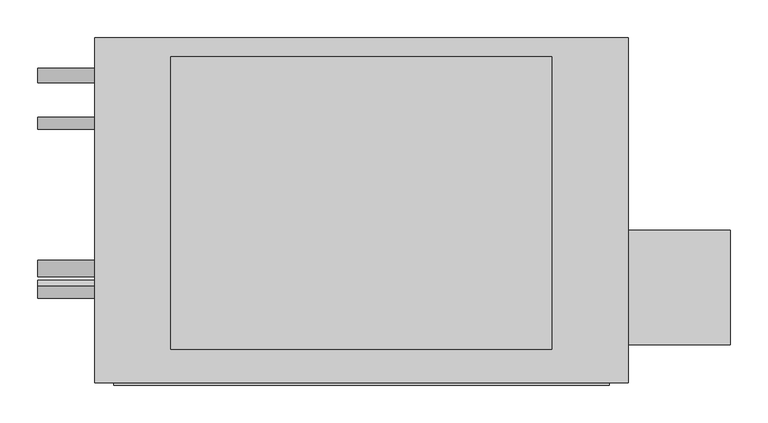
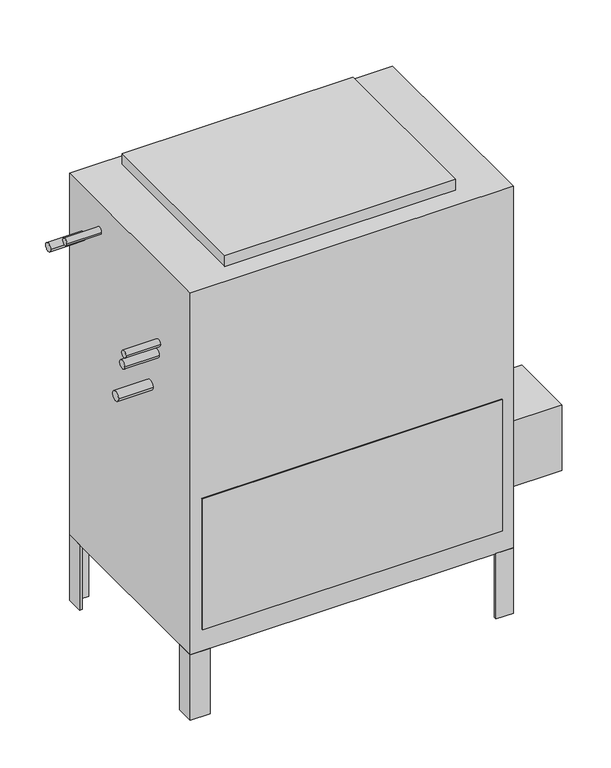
"""IFC4 building model written with IfcOpenShell, lengths in millimetres: proxy geometry, Concealed_High_Capacity_Vertical_Fan_Coil_Unit_-_42DDA_-_CARRIER_-_4-Pipe_LH_2022 : Size 08 - 277v/60Hz/1Ph - 4/2 Coil."""

import ifcopenshell
import ifcopenshell.guid

model = None  # the IFC model being written
_history = None  # IfcOwnerHistory: only IFC2X3 demands one
_inside = {}  # id of a spatial element -> (the spatial element, [elements in it])
_under = {}  # id of a project, library or spatial element -> (it, [spatial elements below it])
_declared = {}  # id of a project -> (the project, [libraries it declares])
_typed = {}  # id of a type object -> (the type object, [elements of that type])
_made_of = {}  # id of a material, layer set ... -> (it, [elements and type objects made of it])


def new_model(schema):
    """Start an empty IFC model of exactly this schema.

    Asked for "IFC4X3", IfcOpenShell would pick the latest addendum, in which some entities
    have other attributes; the version numbers below select the first issue.
    IFC2X3 requires an IfcOwnerHistory on every rooted entity: one is made here for all.
    """
    global model, _history
    if schema == "IFC4X3":
        model = ifcopenshell.file(schema_version=(4, 3, 0, 0))
    else:
        model = ifcopenshell.file(schema=schema)
    _inside.clear()
    _under.clear()
    _declared.clear()
    _typed.clear()
    _made_of.clear()
    _history = None
    if model.schema == "IFC2X3":
        org = make("IfcOrganization", Name="unknown")
        user = make(
            "IfcPersonAndOrganization",
            ThePerson=make("IfcPerson", FamilyName="unknown"),
            TheOrganization=org,
        )
        app = make(
            "IfcApplication",
            ApplicationDeveloper=org,
            Version="unknown",
            ApplicationFullName="unknown",
            ApplicationIdentifier="unknown",
        )
        _history = make(
            "IfcOwnerHistory",
            OwningUser=user,
            OwningApplication=app,
            ChangeAction="ADDED",
            CreationDate=0,
        )
    return model


def make(cls, **values):
    """One entity of the class cls with the attributes given. An attribute that is None is left unset."""
    return model.create_entity(
        cls, **{name: value for name, value in values.items() if value is not None}
    )


def rooted(cls, **values):
    """An entity with a GlobalId (a new one), such as an element, a storey or a relation."""
    return make(cls, GlobalId=ifcopenshell.guid.new(), OwnerHistory=_history, **values)


def si_unit(unit_type, name, prefix=None):
    """IfcSIUnit, for example si_unit("LENGTHUNIT", "METRE", prefix="MILLI")."""
    return make("IfcSIUnit", UnitType=unit_type, Prefix=prefix, Name=name)


def assignment(units):
    """IfcUnitAssignment: the units of a project."""
    return None if units is None else make("IfcUnitAssignment", Units=units)


def point(xyz):
    """IfcCartesianPoint."""
    return None if xyz is None else make("IfcCartesianPoint", Coordinates=xyz)


def direction(xyz):
    """IfcDirection."""
    return None if xyz is None else make("IfcDirection", DirectionRatios=xyz)


def frame(location, z_axis=None, x_axis=None):
    """IfcAxis2Placement3D, a coordinate frame: its origin and axes. An axis left out is left unset."""
    return make(
        "IfcAxis2Placement3D",
        Location=point(location),
        Axis=direction(z_axis),
        RefDirection=direction(x_axis),
    )


def frame_2d(location, x_axis=None):
    """IfcAxis2Placement2D, a coordinate frame in the plane: its origin and x axis."""
    return make(
        "IfcAxis2Placement2D", Location=point(location), RefDirection=direction(x_axis)
    )


def origin():
    """The frame at (0, 0, 0) with its axes left unset."""
    return frame((0.0, 0.0, 0.0))


def origin_with_axes():
    """The frame at (0, 0, 0) with the z axis (0, 0, 1) and the x axis (1, 0, 0) written out."""
    return frame((0.0, 0.0, 0.0), z_axis=(0.0, 0.0, 1.0), x_axis=(1.0, 0.0, 0.0))


def place(relative_to, where):
    """IfcLocalPlacement: puts the frame where relative to a parent placement (None: the world)."""
    return make(
        "IfcLocalPlacement", PlacementRelTo=relative_to, RelativePlacement=where
    )


def context(
    kind, dimensions, precision=None, world=None, true_north=None, identifier=None
):
    """IfcGeometricRepresentationContext, for example the 3D "Model" context."""
    return make(
        "IfcGeometricRepresentationContext",
        ContextIdentifier=identifier,
        ContextType=kind,
        CoordinateSpaceDimension=dimensions,
        Precision=precision,
        WorldCoordinateSystem=world,
        TrueNorth=true_north,
    )


def project(units=None, contexts=None):
    """IfcProject with its units and contexts."""
    return rooted(
        "IfcProject",
        Name="project",
        RepresentationContexts=contexts,
        UnitsInContext=assignment(units),
    )


def spatial(cls, under=None, at=None, **own):
    """A site, building, storey or space (cls), placed at a placement, below another one or the project."""
    s = rooted(cls, ObjectPlacement=at, **own)
    if under is not None:
        _under.setdefault(under.id(), (under, []))[1].append(s)
    return s


def polyline(points):
    """IfcPolyline through the points."""
    return make("IfcPolyline", Points=[point(p) for p in points])


def circle_curve(where, radius):
    """IfcCircle in the frame where."""
    return make("IfcCircle", Position=where, Radius=radius)


def trimmed(basis, trim1, trim2, sense, master):
    """IfcTrimmedCurve: the piece of a basis curve between two trims."""
    return make(
        "IfcTrimmedCurve",
        BasisCurve=basis,
        Trim1=trim1,
        Trim2=trim2,
        SenseAgreement=sense,
        MasterRepresentation=master,
    )


def segment(curve, same_sense, transition):
    """IfcCompositeCurveSegment."""
    return make(
        "IfcCompositeCurveSegment",
        Transition=transition,
        SameSense=same_sense,
        ParentCurve=curve,
    )


def composite_curve(segments, self_intersect=None):
    """IfcCompositeCurve: segments joined end to end."""
    return make("IfcCompositeCurve", Segments=segments, SelfIntersect=self_intersect)


def outline(outer, holes=None, kind="AREA"):
    """IfcArbitraryClosedProfileDef: a profile drawn as a closed curve; with holes, ...WithVoids."""
    if holes is None:
        return make("IfcArbitraryClosedProfileDef", ProfileType=kind, OuterCurve=outer)
    return make(
        "IfcArbitraryProfileDefWithVoids",
        ProfileType=kind,
        OuterCurve=outer,
        InnerCurves=holes,
    )


def extrude(swept, where, along, depth):
    """IfcExtrudedAreaSolid: the profile swept, set in the frame where, extruded along a direction by depth."""
    return make(
        "IfcExtrudedAreaSolid",
        SweptArea=swept,
        Position=where,
        ExtrudedDirection=direction(along),
        Depth=depth,
    )


def shape(context_of_items, identifier, shape_type, items):
    """IfcShapeRepresentation: the items that make up one representation, for example the "Body"."""
    return make(
        "IfcShapeRepresentation",
        ContextOfItems=context_of_items,
        RepresentationIdentifier=identifier,
        RepresentationType=shape_type,
        Items=items,
    )


def source(mapping_origin, context_of_items, identifier, shape_type, items):
    """IfcRepresentationMap: a shape defined once, which mapped items show again and again."""
    return make(
        "IfcRepresentationMap",
        MappingOrigin=mapping_origin,
        MappedRepresentation=shape(context_of_items, identifier, shape_type, items),
    )


def transform(
    local_origin,
    x_axis=None,
    y_axis=None,
    z_axis=None,
    scale=None,
    scale2=None,
    scale3=None,
    uniform=True,
):
    """IfcCartesianTransformationOperator3D, or its non-uniform kind. x_axis, y_axis, z_axis: its Axis1, 2, 3."""
    if uniform:
        return make(
            "IfcCartesianTransformationOperator3D",
            Axis1=direction(x_axis),
            Axis2=direction(y_axis),
            LocalOrigin=point(local_origin),
            Scale=scale,
            Axis3=direction(z_axis),
        )
    return make(
        "IfcCartesianTransformationOperator3DnonUniform",
        Axis1=direction(x_axis),
        Axis2=direction(y_axis),
        LocalOrigin=point(local_origin),
        Scale=scale,
        Axis3=direction(z_axis),
        Scale2=scale2,
        Scale3=scale3,
    )


def mapped(mapping_source, mapping_target):
    """IfcMappedItem: shows the shape of a source again, moved by a transform."""
    return make(
        "IfcMappedItem", MappingSource=mapping_source, MappingTarget=mapping_target
    )


def made_of(thing, what):
    """Note that an element or type object is made of a material, layer set ...; save() writes the relation."""
    if what is not None:
        _made_of.setdefault(what.id(), (what, []))[1].append(thing)
    return thing


def element(
    cls,
    number,
    at=None,
    inside=None,
    cuts=None,
    type_object=None,
    material=None,
    context=None,
    identifier="Body",
    shape_type=None,
    held_by="IfcProductDefinitionShape",
    body=None,
    shapes=None,
    **own,
):
    """One element of the class cls, such as IfcWall. Its Tag is "e" and its number.

    at: its placement. inside: the storey or other place that contains it. cuts: it is an
    opening in that element (IfcRelVoidsElement). A single representation is given by context,
    identifier, shape_type and body (its items); several are given by shapes. held_by: the class
    of the entity that holds the representations. save() writes the other relations.
    """
    e = rooted(cls, Tag="e%d" % number, ObjectPlacement=at, **own)
    if body is not None:
        shapes = [shape(context, identifier, shape_type, body)]
    if shapes is not None:
        e.Representation = make(held_by, Representations=shapes)
    if inside is not None:
        _inside.setdefault(inside.id(), (inside, []))[1].append(e)
    if cuts is not None:
        rooted(
            "IfcRelVoidsElement", RelatingBuildingElement=cuts, RelatedOpeningElement=e
        )
    if type_object is not None:
        _typed.setdefault(type_object.id(), (type_object, []))[1].append(e)
    return made_of(e, material)


def aggregate(whole, parts):
    """IfcRelAggregates: a whole, such as a stair, and the parts it consists of."""
    return rooted("IfcRelAggregates", RelatingObject=whole, RelatedObjects=parts)


def save(model, path):
    """Write the relations noted so far, then the file.

    IfcRelAggregates (storeys below a building ...), IfcRelContainedInSpatialStructure (elements
    in a storey), IfcRelDefinesByType, IfcRelAssociatesMaterial and IfcRelDeclares: one each for
    every whole, place, type object, material and project.
    """
    for whole, parts in _under.values():
        aggregate(whole, parts)
    for where, things in _inside.values():
        rooted(
            "IfcRelContainedInSpatialStructure",
            RelatedElements=things,
            RelatingStructure=where,
        )
    for kind, things in _typed.values():
        rooted("IfcRelDefinesByType", RelatedObjects=things, RelatingType=kind)
    for what, things in _made_of.values():
        rooted("IfcRelAssociatesMaterial", RelatedObjects=things, RelatingMaterial=what)
    for by, libraries in _declared.values():
        rooted("IfcRelDeclares", RelatingContext=by, RelatedDefinitions=libraries)
    model.write(path)


def mechanical_equipment_c005a9e1(model_context):
    return source(origin(), model_context, "Body", "SweptSolid", [
        extrude(outline(polyline([(644.525, -265.1125), (644.525, -417.5125), (508.0, -417.5125), (508.0, -265.1125), (644.525, -265.1125)])), frame((0.0, 0.0, 101.6), z_axis=(0.0, 0.0, 1.0), x_axis=(1.0, 0.0, 0.0)), (0.0, 0.0, 1.0), 152.4),
        extrude(outline(polyline([(508.0, -46.0375), (501.65, -46.0375), (501.65, -14.2875), (469.9, -14.2875), (469.9, -7.9375), (508.0, -7.9375), (508.0, -46.0375)])), frame((0.0, 0.0, -152.4), z_axis=(0.0, 0.0, 1.0), x_axis=(1.0, 0.0, 0.0)), (0.0, 0.0, 1.0), 152.4),
        extrude(outline(polyline([(-165.1, -7.9375), (-165.1, -14.2875), (-196.85, -14.2875), (-196.85, -46.0375), (-203.2, -46.0375), (-203.2, -7.9375), (-165.1, -7.9375)])), frame((0.0, 0.0, -152.4), z_axis=(0.0, 0.0, 1.0), x_axis=(1.0, 0.0, 0.0)), (0.0, 0.0, 1.0), 152.4),
        extrude(outline(polyline([(469.9, -468.3125), (469.9, -461.9625), (501.65, -461.9625), (501.65, -430.2125), (508.0, -430.2125), (508.0, -468.3125), (469.9, -468.3125)])), frame((0.0, 0.0, -152.4), z_axis=(0.0, 0.0, 1.0), x_axis=(1.0, 0.0, 0.0)), (0.0, 0.0, 1.0), 152.4),
        extrude(outline(polyline([(-203.2, -428.1199163), (-196.85, -428.1199163), (-196.85, -461.9625), (-159.7318533, -461.9625), (-159.7318533, -468.3125), (-203.2, -468.3125), (-203.2, -428.1199163)])), frame((0.0, 0.0, -152.4), z_axis=(0.0, 0.0, 1.0), x_axis=(1.0, 0.0, 0.0)), (0.0, 0.0, 1.0), 152.4),
        extrude(outline(polyline([(406.4, -33.3375), (406.4, -423.8625), (-101.6, -423.8625), (-101.6, -33.3375), (406.4, -33.3375)])), frame((0.0, 0.0, 841.375), z_axis=(0.0, 0.0, 1.0), x_axis=(1.0, 0.0, 0.0)), (0.0, 0.0, 1.0), 25.4),
        extrude(outline(polyline([(482.6, -471.4875), (-177.8, -471.4875), (-177.8, -468.3125), (482.6, -468.3125), (482.6, -471.4875)])), frame((0.0, 0.0, 50.8), z_axis=(0.0, 0.0, 1.0), x_axis=(1.0, 0.0, 0.0)), (0.0, 0.0, 1.0), 304.8),
        extrude(outline(composite_curve([segment(trimmed(circle_curve(frame_2d((-122.2375, 777.875)), 7.9375), [point((-130.175, 777.875))], [point((-114.3, 777.875))], False, "CARTESIAN"), True, "CONTINUOUS"), segment(trimmed(circle_curve(frame_2d((-122.2375, 777.875)), 7.9375), [point((-114.3, 777.875))], [point((-130.175, 777.875))], False, "CARTESIAN"), True, "CONTINUOUS")], self_intersect=False)), frame((-279.4, 0.0, 0.0), z_axis=(1.0, 0.0, 0.0), x_axis=(0.0, 1.0, 0.0)), (0.0, 0.0, 1.0), 76.2),
        extrude(outline(composite_curve([segment(trimmed(circle_curve(frame_2d((-347.3848135, 653.2230057)), 7.9375), [point((-355.3223135, 653.2230057))], [point((-339.4473135, 653.2230057))], False, "CARTESIAN"), True, "CONTINUOUS"), segment(trimmed(circle_curve(frame_2d((-347.3848135, 653.2230057)), 7.9375), [point((-339.4473135, 653.2230057))], [point((-355.3223135, 653.2230057))], False, "CARTESIAN"), True, "CONTINUOUS")], self_intersect=False)), frame((-279.4, 0.0, 0.0), z_axis=(1.0, 0.0, 0.0), x_axis=(0.0, 1.0, 0.0)), (0.0, 0.0, 1.0), 76.2),
        extrude(outline(composite_curve([segment(trimmed(circle_curve(frame_2d((-58.7375, 727.075)), 9.525), [point((-68.2625, 727.075))], [point((-49.2125, 727.075))], False, "CARTESIAN"), True, "CONTINUOUS"), segment(trimmed(circle_curve(frame_2d((-58.7375, 727.075)), 9.525), [point((-49.2125, 727.075))], [point((-68.2625, 727.075))], False, "CARTESIAN"), True, "CONTINUOUS")], self_intersect=False)), frame((-279.4, 0.0, 0.0), z_axis=(1.0, 0.0, 0.0), x_axis=(0.0, 1.0, 0.0)), (0.0, 0.0, 1.0), 76.2),
        extrude(outline(composite_curve([segment(trimmed(circle_curve(frame_2d((-341.3125, 625.475)), 9.525), [point((-350.8375, 625.475))], [point((-331.7875, 625.475))], False, "CARTESIAN"), True, "CONTINUOUS"), segment(trimmed(circle_curve(frame_2d((-341.3125, 625.475)), 9.525), [point((-331.7875, 625.475))], [point((-350.8375, 625.475))], False, "CARTESIAN"), True, "CONTINUOUS")], self_intersect=False)), frame((-279.4, 0.0, 0.0), z_axis=(1.0, 0.0, 0.0), x_axis=(0.0, 1.0, 0.0)), (0.0, 0.0, 1.0), 76.2),
        extrude(outline(composite_curve([segment(trimmed(circle_curve(frame_2d((-315.9125, 536.575)), 11.1125), [point((-327.025, 536.575))], [point((-304.8, 536.575))], False, "CARTESIAN"), True, "CONTINUOUS"), segment(trimmed(circle_curve(frame_2d((-315.9125, 536.575)), 11.1125), [point((-304.8, 536.575))], [point((-327.025, 536.575))], False, "CARTESIAN"), True, "CONTINUOUS")], self_intersect=False)), frame((-279.4, 0.0, 0.0), z_axis=(1.0, 0.0, 0.0), x_axis=(0.0, 1.0, 0.0)), (0.0, 0.0, 1.0), 76.2),
        extrude(outline(polyline([(508.0, -7.9375), (508.0, -468.3125), (-203.2, -468.3125), (-203.2, -7.9375), (508.0, -7.9375)])), origin_with_axes(), (0.0, 0.0, 1.0), 841.375),
    ])


if __name__ == "__main__":
    model = new_model("IFC4")
    model_context = context("Model", 3, world=origin())
    ifc_project = project(units=[si_unit("LENGTHUNIT", "METRE", prefix="MILLI")], contexts=[model_context])
    site = spatial("IfcSite", under=ifc_project)
    building = spatial("IfcBuilding", under=site)
    placement = place(None, origin())
    mechanical_equipment_shape = mechanical_equipment_c005a9e1(model_context)
    element("IfcBuildingElementProxy", 1, Name="Concealed_High_Capacity_Vertical_Fan_Coil_Unit_-_42DDA_-_CARRIER_-_4-Pipe_LH_2022 : Size 08 - 277v/60Hz/1Ph - 4/2 Coil", ObjectType="Concealed_High_Capacity_Vertical_Fan_Coil_Unit_-_42DDA_-_CARRIER_-_4-Pipe_LH_2022 : Size 08 - 277v/60Hz/1Ph - 4/2 Coil", at=placement, inside=building, context=model_context, shape_type="MappedRepresentation", body=[
        mapped(mechanical_equipment_shape, transform((0.0, 0.0, 0.0), x_axis=(1.0, 0.0, 0.0), y_axis=(0.0, 1.0, 0.0), z_axis=(0.0, 0.0, 1.0))),
    ])
    save(model, "model.ifc")
